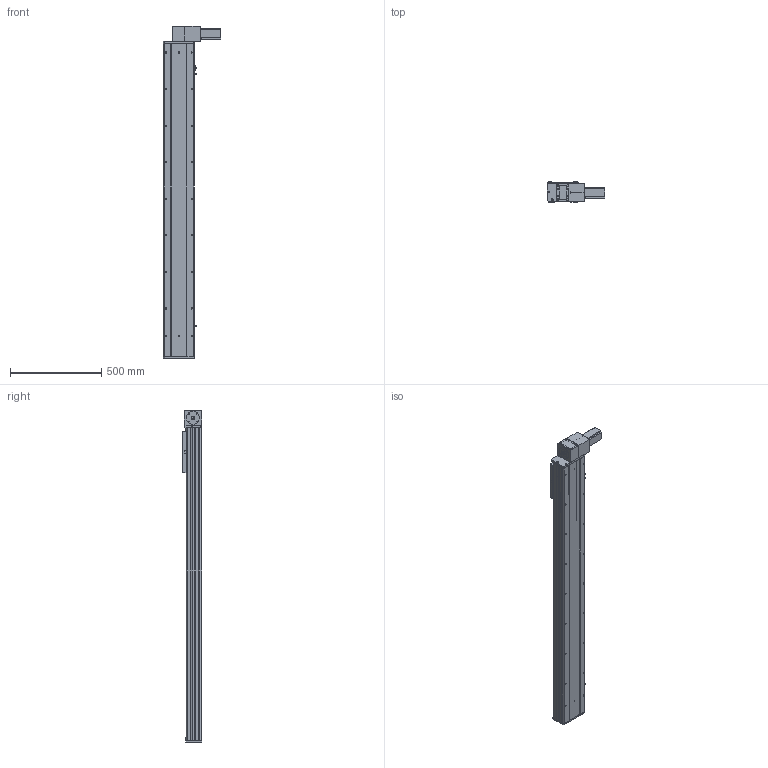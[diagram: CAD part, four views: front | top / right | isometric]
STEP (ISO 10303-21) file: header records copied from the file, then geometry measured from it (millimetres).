
FILE_DESCRIPTION (( 'STEP AP203' ), '1' );
FILE_NAME ('Y170CB-D105-S1400-BD-P400W.STEP', '2020-02-20T08:44:06', ( '微软用户' ), ( '微软中国' ), 'SwSTEP 2.0', 'SolidWorks 2017', '' );
FILE_SCHEMA (( 'CONFIG_CONTROL_DESIGN' ));
Length unit declared in the file: millimetre
Products named in the file (16): --70CB --喘謫眊楊擘啣-; 70CB-耜裔啣-; 0C--雄赽釱俋欶-170; 70C--詩湍揤踡え-; 70CB-詩湍--; 70CB--耜裔; Y100-135俋离換覜ん--; 70C-雄赽釱-奻-; Y170CB-陔俋离換覜結え---; B-源倛裔啣; Y1埴倛裔; san松下电机400不带刹车----; 70B喘謫眊----; 70CB-掛极-; 0B薊粣ん眊-400W--; Y170CB-D105-S1400-BD-P400W
Assembly tree (19 placements, depth 2):
  Y170CB-D105-S1400-BD-P400W
    B-源倛裔啣
    san松下电机400不带刹车----
    70CB-掛极-
    --70CB --喘謫眊楊擘啣-
    70CB-耜裔啣-  x2
    70C--詩湍揤踡え-  x2
    70CB--耜裔
    70C-雄赽釱-奻-
    0C--雄赽釱俋欶-170
    70CB-詩湍--
    Y100-135俋离換覜ん--  x3
    Y170CB-陔俋离換覜結え---
    Y1埴倛裔
    70B喘謫眊----
    0B薊粣ん眊-400W--
Bounding box: 313.5 x 107 x 1816 mm (x, y, z)
Volume: 8401819.6 mm3; surface area: 2889291.1 mm2
Topology: 19 solids, 19 shells, 936 faces, 2474 edges, 1640 vertices
Faces by surface type: cylinder 490, plane 422, cone 24
Entity records: 29303 total; most frequent: CARTESIAN_POINT 5446, DIRECTION 4767, ORIENTED_EDGE 4430, EDGE_CURVE 2215, AXIS2_PLACEMENT_3D 1761, VERTEX_POINT 1470, LINE 1245, VECTOR 1245
